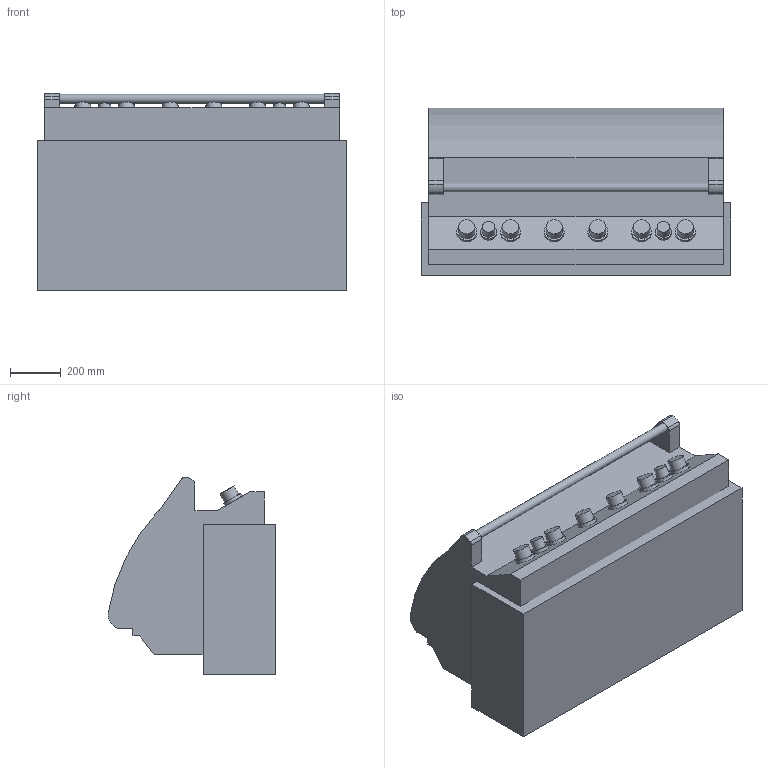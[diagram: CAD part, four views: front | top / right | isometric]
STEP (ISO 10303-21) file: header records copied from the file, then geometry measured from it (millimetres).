
FILE_DESCRIPTION (( 'STEP AP203' ), '1' );
FILE_NAME ('BIG44RB_WITH_LINER.STEP', '2020-04-24T13:44:31', ( '8DNKR52' ), ( 'Microsoft' ), 'SwSTEP 2.0', 'SolidWorks 2019', '' );
FILE_SCHEMA (( 'CONFIG_CONTROL_DESIGN' ));
Length unit declared in the file: inch
Products named in the file (1): BIG44RB_WITH_LINER
Bounding box: 1212.85 x 657.94 x 773.26 mm (x, y, z)
Volume: 550652776.7 mm3; surface area: 5927177.3 mm2
Topology: 2 solids, 2 shells, 71 faces, 161 edges, 110 vertices
Faces by surface type: plane 46, cylinder 25
Full cylindrical faces by diameter (mm): 34.925 x1, 49.213 x2, 63.5 x8, 77.787 x6
Entity records: 1933 total; most frequent: DIRECTION 330, CARTESIAN_POINT 310, ORIENTED_EDGE 272, EDGE_CURVE 136, AXIS2_PLACEMENT_3D 122, EDGE_LOOP 106, VERTEX_POINT 102, FACE_OUTER_BOUND 88
